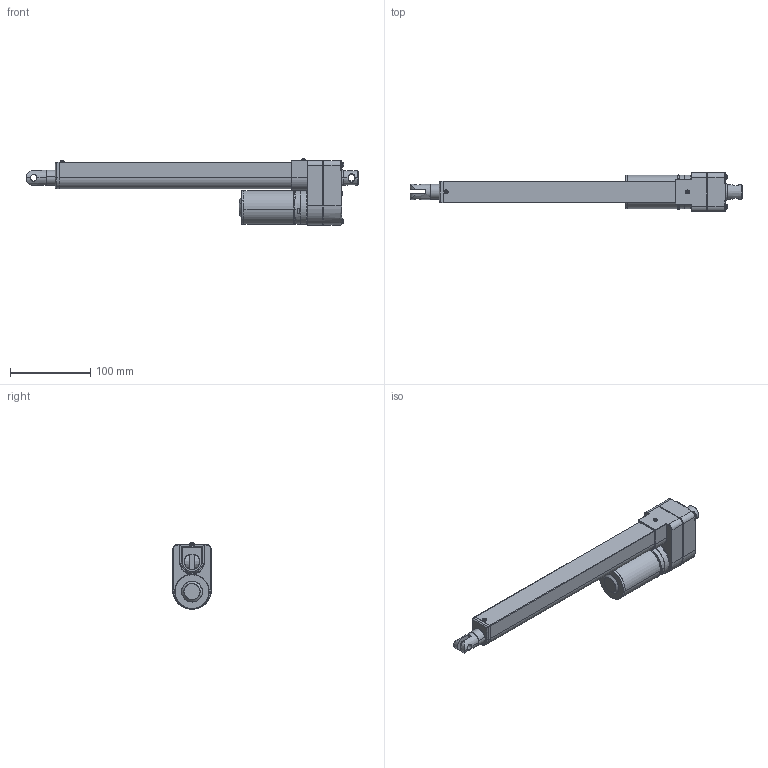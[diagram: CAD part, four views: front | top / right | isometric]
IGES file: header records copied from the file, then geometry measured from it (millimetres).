
Start section: SolidWorks IGES file using analytic representation for surfaces
Global section: file name: S:\W110B\La_3D\LAS2\LAS2ｲﾕｦXｹﾏ_Stroke=250.IGS; native system: SolidWorks 2009; preprocessor: SolidWorks 2009; author: fang; date: 110518.171239; units: millimetre
Bounding box: 413.4 x 48 x 82.79 mm (x, y, z)
Surface area: 98225.7 mm2 (no closed solid volume)
Topology: 0 solids, 0 shells, 373 faces, 6153 edges, 6138 vertices
Faces by surface type: bspline 254, revolution 119
